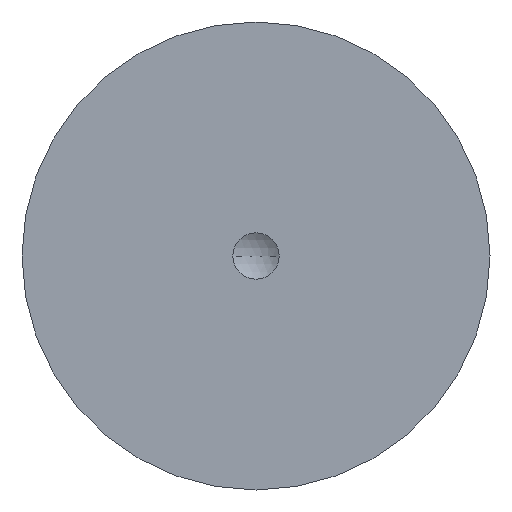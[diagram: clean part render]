
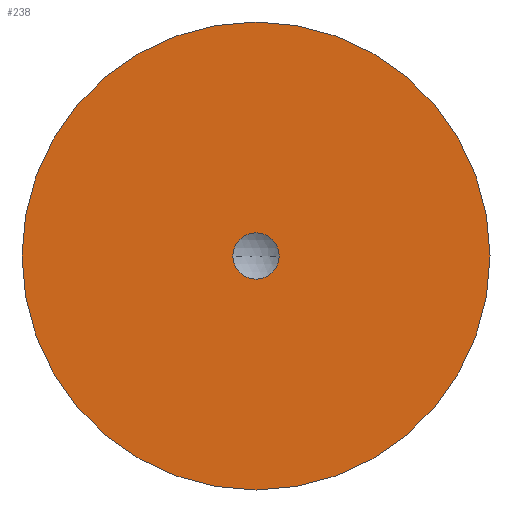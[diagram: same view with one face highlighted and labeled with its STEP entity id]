
A CAD part, front view. The second image highlights one B-rep face of the part: STEP entity #238.
In plain terms, the highlighted planar face has unit normal (0, -1, 0).
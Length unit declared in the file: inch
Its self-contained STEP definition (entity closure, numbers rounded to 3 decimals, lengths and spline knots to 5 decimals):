
#5 = DIRECTION ( 'NONE',  ( 0., 1., 0. ) ) ;
#7 = AXIS2_PLACEMENT_3D ( 'NONE', #129, #35, #175 ) ;
#12 = CIRCLE ( 'NONE', #24, 0.06178 ) ;
#20 = VERTEX_POINT ( 'NONE', #229 ) ;
#24 = AXIS2_PLACEMENT_3D ( 'NONE', #248, #5, #171 ) ;
#35 = DIRECTION ( 'NONE',  ( 0., 1., 0. ) ) ;
#36 = CARTESIAN_POINT ( 'NONE',  ( -0.625, -0.036, 0. ) ) ;
#57 = FACE_BOUND ( 'NONE', #226, .T. ) ;
#62 = ORIENTED_EDGE ( 'NONE', *, *, #75, .T. ) ;
#70 = EDGE_CURVE ( 'NONE', #20, #118, #131, .T. ) ;
#75 = EDGE_CURVE ( 'NONE', #161, #98, #103, .T. ) ;
#76 = CARTESIAN_POINT ( 'NONE',  ( 0., -0.036, 0.625 ) ) ;
#83 = DIRECTION ( 'NONE',  ( 0., 1., 0. ) ) ;
#85 = DIRECTION ( 'NONE',  ( 0., 1., 0. ) ) ;
#98 = VERTEX_POINT ( 'NONE', #172 ) ;
#103 = CIRCLE ( 'NONE', #157, 0.06178 ) ;
#118 = VERTEX_POINT ( 'NONE', #76 ) ;
#129 = CARTESIAN_POINT ( 'NONE',  ( 0., -0.036, 0. ) ) ;
#130 = DIRECTION ( 'NONE',  ( 0., -1., 0. ) ) ;
#131 = CIRCLE ( 'NONE', #7, 0.625 ) ;
#153 = DIRECTION ( 'NONE',  ( 0., 0., 1. ) ) ;
#157 = AXIS2_PLACEMENT_3D ( 'NONE', #276, #83, #153 ) ;
#161 = VERTEX_POINT ( 'NONE', #169 ) ;
#164 = EDGE_CURVE ( 'NONE', #98, #161, #12, .T. ) ;
#165 = CIRCLE ( 'NONE', #186, 0.625 ) ;
#169 = CARTESIAN_POINT ( 'NONE',  ( -0.06178, -0.036, 0. ) ) ;
#171 = DIRECTION ( 'NONE',  ( 0., 0., 1. ) ) ;
#172 = CARTESIAN_POINT ( 'NONE',  ( 0.06178, -0.036, 0. ) ) ;
#175 = DIRECTION ( 'NONE',  ( 0., 0., 1. ) ) ;
#182 = PLANE ( 'NONE',  #208 ) ;
#186 = AXIS2_PLACEMENT_3D ( 'NONE', #194, #85, #263 ) ;
#194 = CARTESIAN_POINT ( 'NONE',  ( 0., -0.036, 0. ) ) ;
#196 = EDGE_LOOP ( 'NONE', ( #225, #243 ) ) ;
#198 = FACE_OUTER_BOUND ( 'NONE', #196, .T. ) ;
#201 = DIRECTION ( 'NONE',  ( 0., 0., -1. ) ) ;
#208 = AXIS2_PLACEMENT_3D ( 'NONE', #36, #130, #201 ) ;
#225 = ORIENTED_EDGE ( 'NONE', *, *, #279, .F. ) ;
#226 = EDGE_LOOP ( 'NONE', ( #62, #245 ) ) ;
#229 = CARTESIAN_POINT ( 'NONE',  ( 0., -0.036, -0.625 ) ) ;
#238 = ADVANCED_FACE ( 'NONE', ( #57, #198 ), #182, .T. ) ;
#243 = ORIENTED_EDGE ( 'NONE', *, *, #70, .F. ) ;
#245 = ORIENTED_EDGE ( 'NONE', *, *, #164, .T. ) ;
#248 = CARTESIAN_POINT ( 'NONE',  ( 0., -0.036, 0. ) ) ;
#263 = DIRECTION ( 'NONE',  ( 0., 0., 1. ) ) ;
#276 = CARTESIAN_POINT ( 'NONE',  ( 0., -0.036, 0. ) ) ;
#279 = EDGE_CURVE ( 'NONE', #118, #20, #165, .T. ) ;
